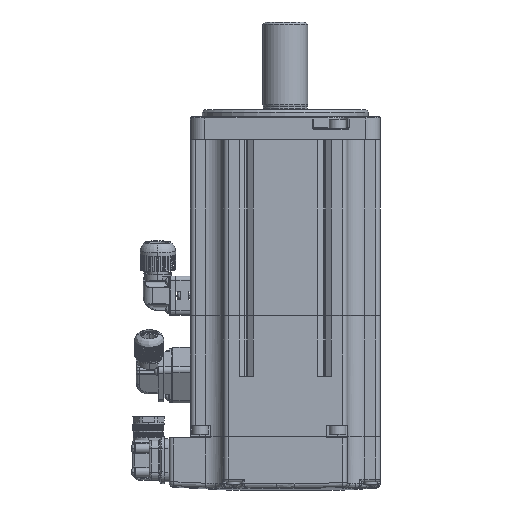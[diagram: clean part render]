
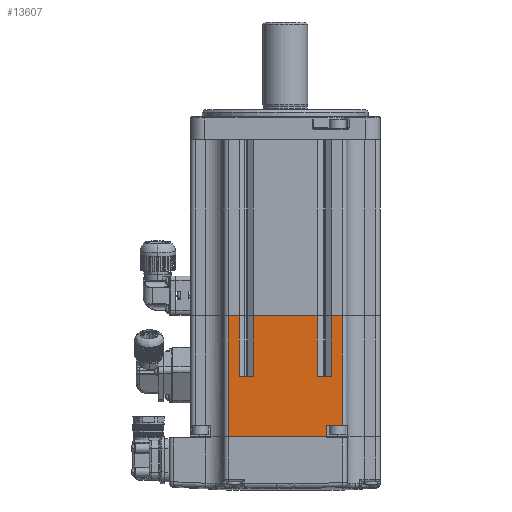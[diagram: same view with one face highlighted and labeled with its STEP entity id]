
A CAD part, front view. The second image highlights one B-rep face of the part: STEP entity #13607.
In plain terms, the highlighted planar face has unit normal (0, -1, 0).
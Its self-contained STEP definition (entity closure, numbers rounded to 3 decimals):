
#2557 = VECTOR ( 'NONE', #6479, 1000. ) ;
#3248 = EDGE_CURVE ( 'NONE', #37905, #34871, #104609, .T. ) ;
#3300 = LINE ( 'NONE', #32073, #44925 ) ;
#4034 = LINE ( 'NONE', #92866, #26178 ) ;
#5707 = CARTESIAN_POINT ( 'NONE',  ( 97.652, 81.49, 112.675 ) ) ;
#6479 = DIRECTION ( 'NONE',  ( 0., 0., 1. ) ) ;
#6995 = ORIENTED_EDGE ( 'NONE', *, *, #54638, .F. ) ;
#7551 = VECTOR ( 'NONE', #78416, 1000. ) ;
#7887 = LINE ( 'NONE', #5707, #93722 ) ;
#8370 = VERTEX_POINT ( 'NONE', #25831 ) ;
#10449 = CARTESIAN_POINT ( 'NONE',  ( 97.652, 81.49, 112.675 ) ) ;
#11068 = VERTEX_POINT ( 'NONE', #25447 ) ;
#12612 = ORIENTED_EDGE ( 'NONE', *, *, #12816, .F. ) ;
#12816 = EDGE_CURVE ( 'NONE', #81693, #22847, #40385, .T. ) ;
#13607 = ADVANCED_FACE ( 'NONE', ( #21525 ), #100984, .F. ) ;
#14306 = CARTESIAN_POINT ( 'NONE',  ( 145.652, 81.49, 66.475 ) ) ;
#15722 = VECTOR ( 'NONE', #60273, 1000. ) ;
#16503 = LINE ( 'NONE', #83857, #80235 ) ;
#19791 = VERTEX_POINT ( 'NONE', #26786 ) ;
#21525 = FACE_OUTER_BOUND ( 'NONE', #43828, .T. ) ;
#22847 = VERTEX_POINT ( 'NONE', #26054 ) ;
#23120 = LINE ( 'NONE', #102458, #67407 ) ;
#24180 = VECTOR ( 'NONE', #102166, 1000. ) ;
#24780 = DIRECTION ( 'NONE',  ( 1., 0., 0. ) ) ;
#25447 = CARTESIAN_POINT ( 'NONE',  ( 97.652, 81.49, 112.675 ) ) ;
#25736 = EDGE_CURVE ( 'NONE', #103838, #50112, #37418, .T. ) ;
#25831 = CARTESIAN_POINT ( 'NONE',  ( 135.152, 81.49, 87.175 ) ) ;
#26054 = CARTESIAN_POINT ( 'NONE',  ( 135.152, 81.49, 112.675 ) ) ;
#26178 = VECTOR ( 'NONE', #76531, 1000. ) ;
#26786 = CARTESIAN_POINT ( 'NONE',  ( 139.152, 81.49, 61.675 ) ) ;
#29166 = ORIENTED_EDGE ( 'NONE', *, *, #50811, .T. ) ;
#29500 = CARTESIAN_POINT ( 'NONE',  ( 108.152, 81.49, 112.675 ) ) ;
#29675 = LINE ( 'NONE', #36567, #7551 ) ;
#30633 = LINE ( 'NONE', #100407, #72263 ) ;
#31307 = ORIENTED_EDGE ( 'NONE', *, *, #105428, .F. ) ;
#31531 = CARTESIAN_POINT ( 'NONE',  ( 145.652, 81.49, 112.675 ) ) ;
#32073 = CARTESIAN_POINT ( 'NONE',  ( 135.152, 81.49, 72.675 ) ) ;
#32739 = EDGE_CURVE ( 'NONE', #11068, #63546, #30633, .T. ) ;
#34043 = DIRECTION ( 'NONE',  ( 0., 0., 1. ) ) ;
#34448 = VECTOR ( 'NONE', #69617, 1000. ) ;
#34871 = VERTEX_POINT ( 'NONE', #31531 ) ;
#35670 = CARTESIAN_POINT ( 'NONE',  ( 147.652, 81.49, 61.675 ) ) ;
#35956 = ORIENTED_EDGE ( 'NONE', *, *, #3248, .F. ) ;
#36567 = CARTESIAN_POINT ( 'NONE',  ( 141.152, 81.49, 72.675 ) ) ;
#37418 = LINE ( 'NONE', #46402, #56992 ) ;
#37905 = VERTEX_POINT ( 'NONE', #42164 ) ;
#38014 = DIRECTION ( 'NONE',  ( 1., 0., 0. ) ) ;
#38927 = VECTOR ( 'NONE', #24780, 1000. ) ;
#38970 = VECTOR ( 'NONE', #47850, 1000. ) ;
#40216 = ORIENTED_EDGE ( 'NONE', *, *, #25736, .F. ) ;
#40368 = DIRECTION ( 'NONE',  ( 0., 0., 1. ) ) ;
#40385 = LINE ( 'NONE', #10449, #15722 ) ;
#41164 = DIRECTION ( 'NONE',  ( 0., 0., -1. ) ) ;
#42164 = CARTESIAN_POINT ( 'NONE',  ( 141.152, 81.49, 112.675 ) ) ;
#43828 = EDGE_LOOP ( 'NONE', ( #31307, #6995, #29166, #12612, #59640, #40216, #44732, #101084, #64267, #85170, #52838, #58747, #105750, #35956 ) ) ;
#43925 = VERTEX_POINT ( 'NONE', #74086 ) ;
#44247 = VERTEX_POINT ( 'NONE', #55791 ) ;
#44732 = ORIENTED_EDGE ( 'NONE', *, *, #90919, .T. ) ;
#44925 = VECTOR ( 'NONE', #40368, 1000. ) ;
#46402 = CARTESIAN_POINT ( 'NONE',  ( 102.152, 81.49, 87.175 ) ) ;
#47850 = DIRECTION ( 'NONE',  ( 0., 0., 1. ) ) ;
#50112 = VERTEX_POINT ( 'NONE', #70102 ) ;
#50811 = EDGE_CURVE ( 'NONE', #8370, #22847, #3300, .T. ) ;
#52838 = ORIENTED_EDGE ( 'NONE', *, *, #54123, .T. ) ;
#53058 = VERTEX_POINT ( 'NONE', #14306 ) ;
#54123 = EDGE_CURVE ( 'NONE', #19791, #43925, #4034, .T. ) ;
#54638 = EDGE_CURVE ( 'NONE', #8370, #88098, #80621, .T. ) ;
#55791 = CARTESIAN_POINT ( 'NONE',  ( 102.152, 81.49, 112.675 ) ) ;
#55924 = EDGE_CURVE ( 'NONE', #53058, #43925, #23120, .T. ) ;
#56992 = VECTOR ( 'NONE', #38014, 1000. ) ;
#57680 = CARTESIAN_POINT ( 'NONE',  ( 102.152, 81.49, 87.175 ) ) ;
#58747 = ORIENTED_EDGE ( 'NONE', *, *, #55924, .F. ) ;
#59026 = AXIS2_PLACEMENT_3D ( 'NONE', #101328, #75235, #69003 ) ;
#59640 = ORIENTED_EDGE ( 'NONE', *, *, #76480, .F. ) ;
#60273 = DIRECTION ( 'NONE',  ( 1., 0., 0. ) ) ;
#63546 = VERTEX_POINT ( 'NONE', #69075 ) ;
#64267 = ORIENTED_EDGE ( 'NONE', *, *, #32739, .T. ) ;
#66391 = LINE ( 'NONE', #97707, #2557 ) ;
#67407 = VECTOR ( 'NONE', #69071, 1000. ) ;
#69003 = DIRECTION ( 'NONE',  ( -1., 0., 0. ) ) ;
#69071 = DIRECTION ( 'NONE',  ( -1., 0., 0. ) ) ;
#69075 = CARTESIAN_POINT ( 'NONE',  ( 97.652, 81.49, 61.675 ) ) ;
#69617 = DIRECTION ( 'NONE',  ( 1., 0., 0. ) ) ;
#70102 = CARTESIAN_POINT ( 'NONE',  ( 108.152, 81.49, 87.175 ) ) ;
#71667 = CARTESIAN_POINT ( 'NONE',  ( 141.152, 81.49, 87.175 ) ) ;
#71903 = CARTESIAN_POINT ( 'NONE',  ( 97.652, 81.49, 112.675 ) ) ;
#72263 = VECTOR ( 'NONE', #41164, 1000. ) ;
#72296 = DIRECTION ( 'NONE',  ( 1., 0., 0. ) ) ;
#74086 = CARTESIAN_POINT ( 'NONE',  ( 139.152, 81.49, 66.475 ) ) ;
#75235 = DIRECTION ( 'NONE',  ( 0., 1., 0. ) ) ;
#76480 = EDGE_CURVE ( 'NONE', #50112, #81693, #16503, .T. ) ;
#76531 = DIRECTION ( 'NONE',  ( 0., 0., 1. ) ) ;
#78416 = DIRECTION ( 'NONE',  ( 0., 0., 1. ) ) ;
#79452 = EDGE_CURVE ( 'NONE', #11068, #44247, #7887, .T. ) ;
#80235 = VECTOR ( 'NONE', #34043, 1000. ) ;
#80621 = LINE ( 'NONE', #82954, #38927 ) ;
#81693 = VERTEX_POINT ( 'NONE', #29500 ) ;
#82954 = CARTESIAN_POINT ( 'NONE',  ( 135.152, 81.49, 87.175 ) ) ;
#83857 = CARTESIAN_POINT ( 'NONE',  ( 108.152, 81.49, 72.675 ) ) ;
#85170 = ORIENTED_EDGE ( 'NONE', *, *, #86562, .T. ) ;
#86562 = EDGE_CURVE ( 'NONE', #63546, #19791, #90542, .T. ) ;
#88098 = VERTEX_POINT ( 'NONE', #71667 ) ;
#88604 = LINE ( 'NONE', #97628, #38970 ) ;
#90542 = LINE ( 'NONE', #35670, #24180 ) ;
#90919 = EDGE_CURVE ( 'NONE', #103838, #44247, #66391, .T. ) ;
#92866 = CARTESIAN_POINT ( 'NONE',  ( 139.152, 81.49, 70.175 ) ) ;
#93722 = VECTOR ( 'NONE', #72296, 1000. ) ;
#95473 = EDGE_CURVE ( 'NONE', #53058, #34871, #88604, .T. ) ;
#97628 = CARTESIAN_POINT ( 'NONE',  ( 145.652, 81.49, 70.175 ) ) ;
#97707 = CARTESIAN_POINT ( 'NONE',  ( 102.152, 81.49, 72.675 ) ) ;
#100407 = CARTESIAN_POINT ( 'NONE',  ( 97.652, 81.49, 70.175 ) ) ;
#100984 = PLANE ( 'NONE',  #59026 ) ;
#101084 = ORIENTED_EDGE ( 'NONE', *, *, #79452, .F. ) ;
#101328 = CARTESIAN_POINT ( 'NONE',  ( 147.652, 81.49, 70.175 ) ) ;
#102166 = DIRECTION ( 'NONE',  ( 1., 0., 0. ) ) ;
#102458 = CARTESIAN_POINT ( 'NONE',  ( 147.652, 81.49, 66.475 ) ) ;
#103838 = VERTEX_POINT ( 'NONE', #57680 ) ;
#104609 = LINE ( 'NONE', #71903, #34448 ) ;
#105428 = EDGE_CURVE ( 'NONE', #88098, #37905, #29675, .T. ) ;
#105750 = ORIENTED_EDGE ( 'NONE', *, *, #95473, .T. ) ;
